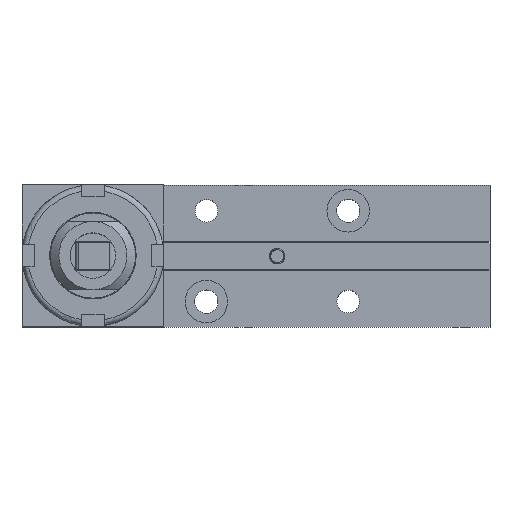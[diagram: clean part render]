
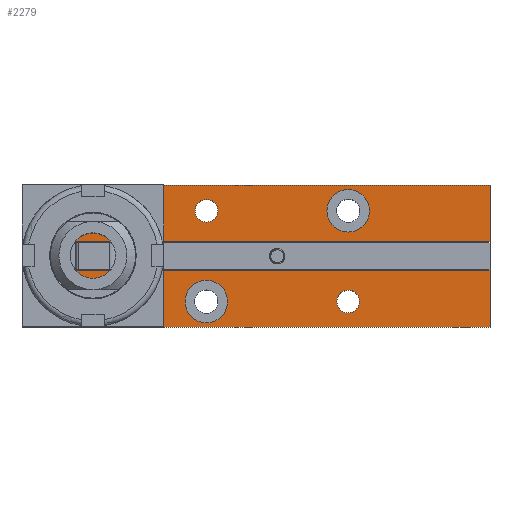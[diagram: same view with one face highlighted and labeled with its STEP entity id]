
A CAD part, top view. The second image highlights one B-rep face of the part: STEP entity #2279.
In plain terms, the highlighted planar face has unit normal (0, 0, 1).
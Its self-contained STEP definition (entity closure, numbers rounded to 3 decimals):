
#162=LINE('',#3484,#295);
#164=LINE('',#3487,#297);
#166=LINE('',#3553,#299);
#168=LINE('',#3559,#301);
#169=LINE('',#3568,#302);
#171=LINE('',#3572,#304);
#173=LINE('',#3575,#306);
#295=VECTOR('',#2761,10.);
#297=VECTOR('',#2765,73.5);
#299=VECTOR('',#2851,73.5);
#301=VECTOR('',#2857,10.);
#302=VECTOR('',#2868,82.5);
#304=VECTOR('',#2872,25.);
#306=VECTOR('',#2876,82.5);
#429=PLANE('',#2483);
#523=FACE_BOUND('',#795,.T.);
#524=FACE_BOUND('',#796,.T.);
#525=FACE_BOUND('',#797,.T.);
#526=FACE_BOUND('',#798,.T.);
#527=FACE_BOUND('',#799,.T.);
#528=FACE_BOUND('',#800,.T.);
#529=FACE_BOUND('',#801,.T.);
#530=FACE_BOUND('',#802,.T.);
#531=FACE_BOUND('',#803,.T.);
#795=EDGE_LOOP('',(#1714));
#796=EDGE_LOOP('',(#1715));
#797=EDGE_LOOP('',(#1716));
#798=EDGE_LOOP('',(#1717));
#799=EDGE_LOOP('',(#1718));
#800=EDGE_LOOP('',(#1719));
#801=EDGE_LOOP('',(#1720));
#802=EDGE_LOOP('',(#1721));
#803=EDGE_LOOP('',(#1722,#1723,#1724,#1725,#1726,#1727,#1728,#1729));
#970=CIRCLE('',#2417,2.5);
#982=CIRCLE('',#2435,2.);
#983=CIRCLE('',#2437,2.);
#986=CIRCLE('',#2442,3.75);
#989=CIRCLE('',#2448,3.75);
#992=CIRCLE('',#2455,2.05);
#995=CIRCLE('',#2461,2.05);
#998=CIRCLE('',#2467,2.05);
#1001=CIRCLE('',#2473,2.05);
#1094=VERTEX_POINT('',#3433);
#1095=VERTEX_POINT('',#3435);
#1114=VERTEX_POINT('',#3481);
#1115=VERTEX_POINT('',#3483);
#1117=VERTEX_POINT('',#3491);
#1118=VERTEX_POINT('',#3494);
#1121=VERTEX_POINT('',#3502);
#1124=VERTEX_POINT('',#3511);
#1127=VERTEX_POINT('',#3521);
#1130=VERTEX_POINT('',#3530);
#1133=VERTEX_POINT('',#3539);
#1136=VERTEX_POINT('',#3548);
#1137=VERTEX_POINT('',#3551);
#1139=VERTEX_POINT('',#3557);
#1142=VERTEX_POINT('',#3567);
#1143=VERTEX_POINT('',#3571);
#1316=EDGE_CURVE('',#1094,#1095,#970,.T.);
#1340=EDGE_CURVE('',#1115,#1114,#162,.T.);
#1342=EDGE_CURVE('',#1114,#1095,#164,.T.);
#1344=EDGE_CURVE('',#1117,#1117,#982,.T.);
#1345=EDGE_CURVE('',#1118,#1118,#983,.T.);
#1348=EDGE_CURVE('',#1121,#1121,#986,.T.);
#1351=EDGE_CURVE('',#1124,#1124,#989,.T.);
#1354=EDGE_CURVE('',#1127,#1127,#992,.T.);
#1357=EDGE_CURVE('',#1130,#1130,#995,.T.);
#1360=EDGE_CURVE('',#1133,#1133,#998,.T.);
#1363=EDGE_CURVE('',#1136,#1136,#1001,.T.);
#1365=EDGE_CURVE('',#1094,#1137,#166,.T.);
#1368=EDGE_CURVE('',#1137,#1139,#168,.T.);
#1371=EDGE_CURVE('',#1115,#1142,#169,.T.);
#1373=EDGE_CURVE('',#1143,#1142,#171,.T.);
#1375=EDGE_CURVE('',#1143,#1139,#173,.T.);
#1714=ORIENTED_EDGE('',*,*,#1344,.T.);
#1715=ORIENTED_EDGE('',*,*,#1345,.T.);
#1716=ORIENTED_EDGE('',*,*,#1348,.T.);
#1717=ORIENTED_EDGE('',*,*,#1351,.T.);
#1718=ORIENTED_EDGE('',*,*,#1354,.T.);
#1719=ORIENTED_EDGE('',*,*,#1357,.T.);
#1720=ORIENTED_EDGE('',*,*,#1360,.T.);
#1721=ORIENTED_EDGE('',*,*,#1363,.T.);
#1722=ORIENTED_EDGE('',*,*,#1365,.T.);
#1723=ORIENTED_EDGE('',*,*,#1368,.T.);
#1724=ORIENTED_EDGE('',*,*,#1375,.F.);
#1725=ORIENTED_EDGE('',*,*,#1373,.T.);
#1726=ORIENTED_EDGE('',*,*,#1371,.F.);
#1727=ORIENTED_EDGE('',*,*,#1340,.T.);
#1728=ORIENTED_EDGE('',*,*,#1342,.T.);
#1729=ORIENTED_EDGE('',*,*,#1316,.F.);
#2279=ADVANCED_FACE('',(#523,#524,#525,#526,#527,#528,#529,#530,#531),#429,
 .T.);
#2417=AXIS2_PLACEMENT_3D('',#3436,#2718,#2719);
#2435=AXIS2_PLACEMENT_3D('',#3492,#2770,#2771);
#2437=AXIS2_PLACEMENT_3D('',#3495,#2774,#2775);
#2442=AXIS2_PLACEMENT_3D('',#3503,#2784,#2785);
#2448=AXIS2_PLACEMENT_3D('',#3512,#2796,#2797);
#2455=AXIS2_PLACEMENT_3D('',#3522,#2810,#2811);
#2461=AXIS2_PLACEMENT_3D('',#3531,#2822,#2823);
#2467=AXIS2_PLACEMENT_3D('',#3540,#2834,#2835);
#2473=AXIS2_PLACEMENT_3D('',#3549,#2846,#2847);
#2483=AXIS2_PLACEMENT_3D('',#3574,#2874,#2875);
#2718=DIRECTION('center_axis',(0.,0.,1.));
#2719=DIRECTION('ref_axis',(-0.707,0.707,0.));
#2761=DIRECTION('',(0.,1.,0.));
#2765=DIRECTION('',(-1.,0.,0.));
#2770=DIRECTION('center_axis',(0.,0.,-1.));
#2771=DIRECTION('ref_axis',(1.,0.,0.));
#2774=DIRECTION('center_axis',(0.,0.,-1.));
#2775=DIRECTION('ref_axis',(1.,0.,0.));
#2784=DIRECTION('center_axis',(0.,0.,-1.));
#2785=DIRECTION('ref_axis',(1.,0.,0.));
#2796=DIRECTION('center_axis',(0.,0.,-1.));
#2797=DIRECTION('ref_axis',(1.,0.,0.));
#2810=DIRECTION('center_axis',(0.,0.,-1.));
#2811=DIRECTION('ref_axis',(-1.,0.,0.));
#2822=DIRECTION('center_axis',(0.,0.,-1.));
#2823=DIRECTION('ref_axis',(-1.,0.,0.));
#2834=DIRECTION('center_axis',(0.,0.,-1.));
#2835=DIRECTION('ref_axis',(-1.,0.,0.));
#2846=DIRECTION('center_axis',(0.,0.,-1.));
#2847=DIRECTION('ref_axis',(-1.,0.,0.));
#2851=DIRECTION('',(1.,0.,0.));
#2857=DIRECTION('',(0.,1.,0.));
#2868=DIRECTION('',(-1.,0.,0.));
#2872=DIRECTION('',(0.,-1.,0.));
#2874=DIRECTION('center_axis',(0.,0.,1.));
#2875=DIRECTION('ref_axis',(1.,0.,0.));
#2876=DIRECTION('',(1.,0.,0.));
#3433=CARTESIAN_POINT('',(-68.5,2.5,3.));
#3435=CARTESIAN_POINT('',(-68.5,-2.5,3.));
#3436=CARTESIAN_POINT('Origin',(-68.5,0.,3.));
#3481=CARTESIAN_POINT('',(5.,-2.5,3.));
#3483=CARTESIAN_POINT('',(5.,-12.5,3.));
#3484=CARTESIAN_POINT('',(5.,0.,3.));
#3487=CARTESIAN_POINT('',(-55.25,-2.5,3.));
#3491=CARTESIAN_POINT('',(-43.,8.,3.));
#3492=CARTESIAN_POINT('Origin',(-45.,8.,3.));
#3494=CARTESIAN_POINT('',(-18.,-8.,3.));
#3495=CARTESIAN_POINT('Origin',(-20.,-8.,3.));
#3502=CARTESIAN_POINT('',(-16.25,8.,3.));
#3503=CARTESIAN_POINT('Origin',(-20.,8.,3.));
#3511=CARTESIAN_POINT('',(-41.25,-8.,3.));
#3512=CARTESIAN_POINT('Origin',(-45.,-8.,3.));
#3521=CARTESIAN_POINT('',(-70.95,-8.,3.));
#3522=CARTESIAN_POINT('Origin',(-73.,-8.,3.));
#3530=CARTESIAN_POINT('',(-54.95,8.,3.));
#3531=CARTESIAN_POINT('Origin',(-57.,8.,3.));
#3539=CARTESIAN_POINT('',(-70.95,8.,3.));
#3540=CARTESIAN_POINT('Origin',(-73.,8.,3.));
#3548=CARTESIAN_POINT('',(-54.95,-8.,3.));
#3549=CARTESIAN_POINT('Origin',(-57.,-8.,3.));
#3551=CARTESIAN_POINT('',(5.,2.5,3.));
#3553=CARTESIAN_POINT('',(-55.25,2.5,3.));
#3557=CARTESIAN_POINT('',(5.,12.5,3.));
#3559=CARTESIAN_POINT('',(5.,0.,3.));
#3567=CARTESIAN_POINT('',(-77.5,-12.5,3.));
#3568=CARTESIAN_POINT('',(5.,-12.5,3.));
#3571=CARTESIAN_POINT('',(-77.5,12.5,3.));
#3572=CARTESIAN_POINT('',(-77.5,0.,3.));
#3574=CARTESIAN_POINT('Origin',(-77.5,0.,3.));
#3575=CARTESIAN_POINT('',(5.,12.5,3.));
